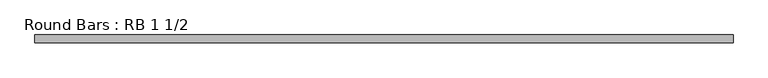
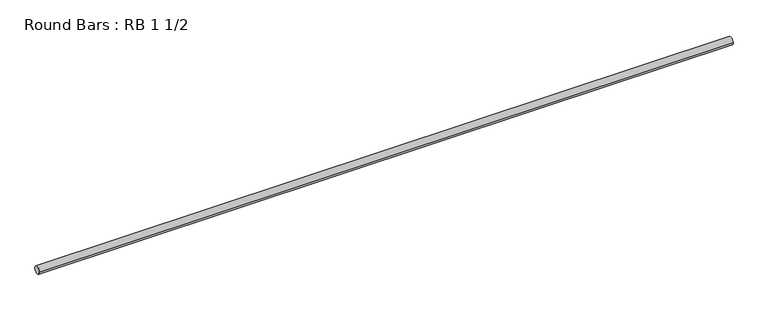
"""IFC4 building model written with IfcOpenShell, lengths in millimetres: member geometry, Round Bars : RB 1 1/2."""

from ifc_helpers import new_model, si_unit, point, frame, origin, origin_2d, place, context, project, spatial, circle_curve, trimmed, segment, composite_curve, outline, extrude, source, transform, mapped, element, save


def round_bars_rb_1_1_2_55a6092e(model_context):
    return source(origin(), model_context, "Body", "SweptSolid", [
        extrude(outline(composite_curve([segment(trimmed(circle_curve(origin_2d(), 19.05), [point((19.05, 0.0))], [point((-19.05, 0.0))], False, "CARTESIAN"), True, "CONTINUOUS"), segment(trimmed(circle_curve(origin_2d(), 19.05), [point((-19.05, 0.0))], [point((19.05, 0.0))], False, "CARTESIAN"), True, "CONTINUOUS")], self_intersect=False)), frame((-1681.6954306, 0.0, 0.0), z_axis=(1.0, 0.0, 0.0), x_axis=(0.0, 1.0, 0.0)), (0.0, 0.0, 1.0), 3461.6892314),
    ])


if __name__ == "__main__":
    model = new_model("IFC4")
    model_context = context("Model", 3, world=origin())
    ifc_project = project(units=[si_unit("LENGTHUNIT", "METRE", prefix="MILLI")], contexts=[model_context])
    site = spatial("IfcSite", under=ifc_project)
    building = spatial("IfcBuilding", under=site)
    placement = place(None, origin())
    round_bars_rb_1_1_2_shape = round_bars_rb_1_1_2_55a6092e(model_context)
    element("IfcMember", 1, ObjectType="Round Bars : RB 1 1/2", at=placement, inside=building, context=model_context, shape_type="MappedRepresentation", body=[
        mapped(round_bars_rb_1_1_2_shape, transform((0.0, 0.0, 0.0), x_axis=(1.0, 0.0, 0.0), y_axis=(0.0, 1.0, 0.0), z_axis=(0.0, 0.0, 1.0))),
    ])
    save(model, "model.ifc")
